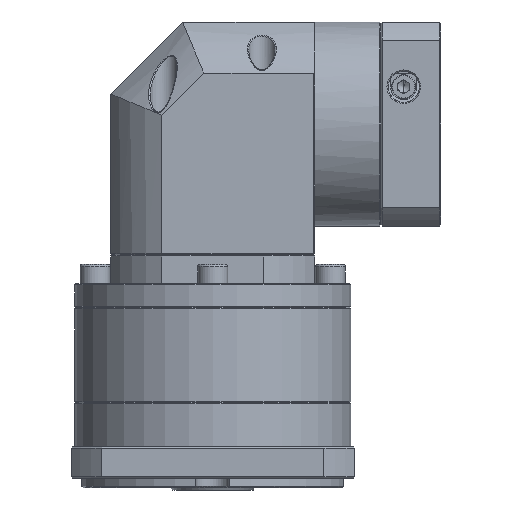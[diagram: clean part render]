
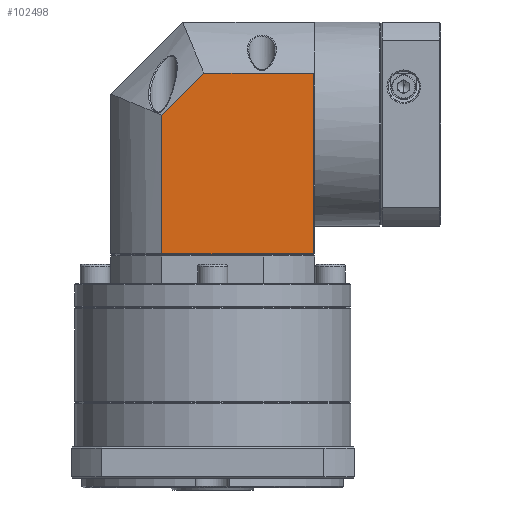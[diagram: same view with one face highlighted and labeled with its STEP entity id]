
A CAD part, front view. The second image highlights one B-rep face of the part: STEP entity #102498.
In plain terms, the highlighted planar face has unit normal (0, -1, 0).
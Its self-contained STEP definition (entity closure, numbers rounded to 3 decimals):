
#721 = CARTESIAN_POINT ( 'NONE',  ( 68.685, 71.939, -22.998 ) ) ;
#1575 = DIRECTION ( 'NONE',  ( -1., 0., 0. ) ) ;
#2015 = VERTEX_POINT ( 'NONE', #76704 ) ;
#5404 = AXIS2_PLACEMENT_3D ( 'NONE', #116864, #64836, #1575 ) ;
#9300 = LINE ( 'NONE', #127603, #84380 ) ;
#11606 = PLANE ( 'NONE',  #5404 ) ;
#18303 = EDGE_CURVE ( 'NONE', #37485, #107233, #9300, .T. ) ;
#22772 = DIRECTION ( 'NONE',  ( 0.707, 0., 0.707 ) ) ;
#23397 = VECTOR ( 'NONE', #113851, 1000. ) ;
#32119 = FACE_OUTER_BOUND ( 'NONE', #89964, .T. ) ;
#33797 = VERTEX_POINT ( 'NONE', #721 ) ;
#37485 = VERTEX_POINT ( 'NONE', #62027 ) ;
#52334 = EDGE_CURVE ( 'NONE', #2015, #33797, #84181, .T. ) ;
#56353 = EDGE_CURVE ( 'NONE', #116930, #33797, #90425, .T. ) ;
#56813 = LINE ( 'NONE', #71582, #114077 ) ;
#62027 = CARTESIAN_POINT ( 'NONE',  ( 5.471, 71.939, 34.685 ) ) ;
#64836 = DIRECTION ( 'NONE',  ( 0., 1., 0. ) ) ;
#68740 = ORIENTED_EDGE ( 'NONE', *, *, #18303, .F. ) ;
#71582 = CARTESIAN_POINT ( 'NONE',  ( 69.185, 71.939, 52.216 ) ) ;
#71799 = EDGE_CURVE ( 'NONE', #116930, #37485, #106638, .T. ) ;
#71819 = CARTESIAN_POINT ( 'NONE',  ( 5.471, 71.939, 73.502 ) ) ;
#76040 = CARTESIAN_POINT ( 'NONE',  ( 5.471, 71.939, -22.998 ) ) ;
#76704 = CARTESIAN_POINT ( 'NONE',  ( 68.685, 71.939, 52.216 ) ) ;
#80537 = CARTESIAN_POINT ( 'NONE',  ( 68.685, 71.939, 73.502 ) ) ;
#84181 = LINE ( 'NONE', #80537, #116725 ) ;
#84380 = VECTOR ( 'NONE', #22772, 1000. ) ;
#89964 = EDGE_LOOP ( 'NONE', ( #126411, #122596, #123687, #68740, #91373 ) ) ;
#90425 = LINE ( 'NONE', #101721, #106673 ) ;
#91373 = ORIENTED_EDGE ( 'NONE', *, *, #71799, .F. ) ;
#92580 = DIRECTION ( 'NONE',  ( 1., 0., 0. ) ) ;
#101721 = CARTESIAN_POINT ( 'NONE',  ( 69.185, 71.939, -22.998 ) ) ;
#102498 = ADVANCED_FACE ( 'NONE', ( #32119 ), #11606, .F. ) ;
#102931 = CARTESIAN_POINT ( 'NONE',  ( 23.002, 71.939, 52.216 ) ) ;
#106638 = LINE ( 'NONE', #71819, #23397 ) ;
#106673 = VECTOR ( 'NONE', #111793, 1000. ) ;
#107233 = VERTEX_POINT ( 'NONE', #102931 ) ;
#111793 = DIRECTION ( 'NONE',  ( 1., 0., 0. ) ) ;
#113851 = DIRECTION ( 'NONE',  ( 0., 0., 1. ) ) ;
#114077 = VECTOR ( 'NONE', #92580, 1000. ) ;
#114321 = DIRECTION ( 'NONE',  ( 0., 0., -1. ) ) ;
#116725 = VECTOR ( 'NONE', #114321, 1000. ) ;
#116864 = CARTESIAN_POINT ( 'NONE',  ( 69.185, 71.939, 73.502 ) ) ;
#116930 = VERTEX_POINT ( 'NONE', #76040 ) ;
#122596 = ORIENTED_EDGE ( 'NONE', *, *, #52334, .F. ) ;
#123687 = ORIENTED_EDGE ( 'NONE', *, *, #130152, .F. ) ;
#126411 = ORIENTED_EDGE ( 'NONE', *, *, #56353, .T. ) ;
#127603 = CARTESIAN_POINT ( 'NONE',  ( 5.471, 71.939, 34.685 ) ) ;
#130152 = EDGE_CURVE ( 'NONE', #107233, #2015, #56813, .T. ) ;
